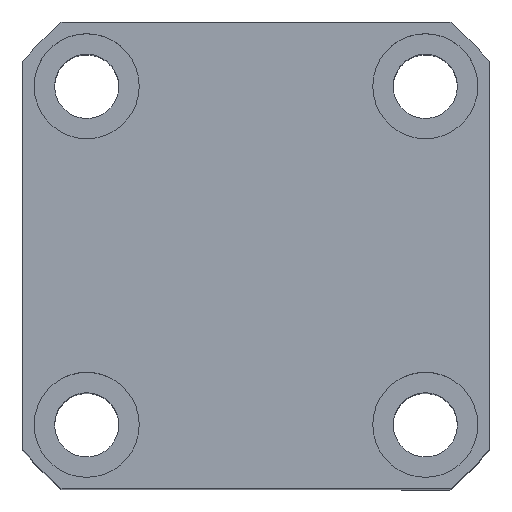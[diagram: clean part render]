
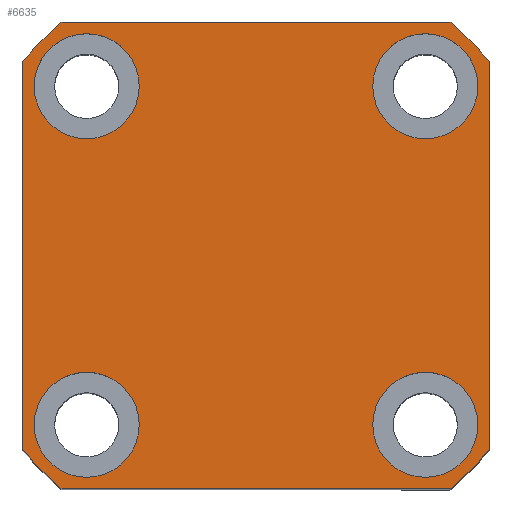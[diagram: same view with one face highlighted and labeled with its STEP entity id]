
A CAD part, top view. The second image highlights one B-rep face of the part: STEP entity #6635.
In plain terms, the highlighted planar face has unit normal (0, 0, 1).
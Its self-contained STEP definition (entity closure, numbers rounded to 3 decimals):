
#117 = ORIENTED_EDGE ( 'NONE', *, *, #8459, .F. ) ;
#233 = AXIS2_PLACEMENT_3D ( 'NONE', #7893, #3469, #10058 ) ;
#523 = VERTEX_POINT ( 'NONE', #2797 ) ;
#663 = CARTESIAN_POINT ( 'NONE',  ( -38., -29., 50. ) ) ;
#667 = LINE ( 'NONE', #1690, #8224 ) ;
#799 = CARTESIAN_POINT ( 'NONE',  ( 29., 29., 50. ) ) ;
#899 = DIRECTION ( 'NONE',  ( 1., 0., 0. ) ) ;
#919 = VERTEX_POINT ( 'NONE', #11881 ) ;
#1082 = CARTESIAN_POINT ( 'NONE',  ( 0., 0., 50. ) ) ;
#1117 = AXIS2_PLACEMENT_3D ( 'NONE', #8408, #2785, #1721 ) ;
#1120 = VERTEX_POINT ( 'NONE', #1200 ) ;
#1200 = CARTESIAN_POINT ( 'NONE',  ( -33.226, 40., 50. ) ) ;
#1299 = CARTESIAN_POINT ( 'NONE',  ( 0., 0., 50. ) ) ;
#1341 = CIRCLE ( 'NONE', #5158, 52. ) ;
#1493 = CARTESIAN_POINT ( 'NONE',  ( 29., -29., 50. ) ) ;
#1551 = CARTESIAN_POINT ( 'NONE',  ( -40., 33.226, 50. ) ) ;
#1651 = EDGE_CURVE ( 'NONE', #919, #13625, #10148, .T. ) ;
#1690 = CARTESIAN_POINT ( 'NONE',  ( 40., 33.226, 50. ) ) ;
#1721 = DIRECTION ( 'NONE',  ( 1., 0., 0. ) ) ;
#1724 = VERTEX_POINT ( 'NONE', #7674 ) ;
#1738 = CIRCLE ( 'NONE', #14001, 9. ) ;
#1853 = DIRECTION ( 'NONE',  ( 0., 0., 1. ) ) ;
#1855 = CIRCLE ( 'NONE', #12449, 9. ) ;
#1921 = EDGE_CURVE ( 'NONE', #11348, #919, #9957, .T. ) ;
#1928 = CIRCLE ( 'NONE', #1117, 52. ) ;
#2012 = ORIENTED_EDGE ( 'NONE', *, *, #11676, .T. ) ;
#2034 = CIRCLE ( 'NONE', #7762, 9. ) ;
#2063 = VECTOR ( 'NONE', #13487, 1000. ) ;
#2089 = FACE_BOUND ( 'NONE', #11738, .T. ) ;
#2161 = DIRECTION ( 'NONE',  ( 1., 0., 0. ) ) ;
#2397 = ORIENTED_EDGE ( 'NONE', *, *, #11001, .F. ) ;
#2429 = DIRECTION ( 'NONE',  ( 1., 0., 0. ) ) ;
#2706 = LINE ( 'NONE', #9014, #7693 ) ;
#2785 = DIRECTION ( 'NONE',  ( 0., 0., 1. ) ) ;
#2797 = CARTESIAN_POINT ( 'NONE',  ( -40., -33.226, 50. ) ) ;
#2842 = CARTESIAN_POINT ( 'NONE',  ( 20., 29., 50. ) ) ;
#2867 = ORIENTED_EDGE ( 'NONE', *, *, #7006, .T. ) ;
#2887 = AXIS2_PLACEMENT_3D ( 'NONE', #799, #1853, #3052 ) ;
#2929 = EDGE_CURVE ( 'NONE', #6508, #7819, #10119, .T. ) ;
#3052 = DIRECTION ( 'NONE',  ( 1., 0., 0. ) ) ;
#3159 = VERTEX_POINT ( 'NONE', #663 ) ;
#3327 = CARTESIAN_POINT ( 'NONE',  ( -20., 29., 50. ) ) ;
#3469 = DIRECTION ( 'NONE',  ( 0., 0., 1. ) ) ;
#3708 = CARTESIAN_POINT ( 'NONE',  ( -40., 33.226, 50. ) ) ;
#3738 = EDGE_CURVE ( 'NONE', #4613, #12480, #2034, .T. ) ;
#3782 = CIRCLE ( 'NONE', #233, 9. ) ;
#3783 = ORIENTED_EDGE ( 'NONE', *, *, #4700, .F. ) ;
#3795 = VERTEX_POINT ( 'NONE', #3708 ) ;
#3844 = ORIENTED_EDGE ( 'NONE', *, *, #9391, .F. ) ;
#3942 = LINE ( 'NONE', #1551, #2063 ) ;
#4214 = CARTESIAN_POINT ( 'NONE',  ( -33.226, -40., 50. ) ) ;
#4545 = DIRECTION ( 'NONE',  ( 1., 0., 0. ) ) ;
#4577 = CARTESIAN_POINT ( 'NONE',  ( 38., -29., 50. ) ) ;
#4581 = CARTESIAN_POINT ( 'NONE',  ( 29., 29., 50. ) ) ;
#4613 = VERTEX_POINT ( 'NONE', #4577 ) ;
#4615 = CARTESIAN_POINT ( 'NONE',  ( -29., 29., 50. ) ) ;
#4645 = DIRECTION ( 'NONE',  ( -1., 0., 0. ) ) ;
#4646 = VECTOR ( 'NONE', #11883, 1000. ) ;
#4691 = VERTEX_POINT ( 'NONE', #2842 ) ;
#4700 = EDGE_CURVE ( 'NONE', #13691, #3159, #1855, .T. ) ;
#4772 = DIRECTION ( 'NONE',  ( 1., 0., 0. ) ) ;
#4915 = CARTESIAN_POINT ( 'NONE',  ( 33.226, 40., 50. ) ) ;
#5085 = ORIENTED_EDGE ( 'NONE', *, *, #1651, .T. ) ;
#5090 = CARTESIAN_POINT ( 'NONE',  ( 40., -33.226, 50. ) ) ;
#5158 = AXIS2_PLACEMENT_3D ( 'NONE', #10134, #10183, #11236 ) ;
#5318 = ORIENTED_EDGE ( 'NONE', *, *, #7696, .F. ) ;
#5535 = EDGE_LOOP ( 'NONE', ( #3783, #2397 ) ) ;
#5803 = AXIS2_PLACEMENT_3D ( 'NONE', #1082, #7497, #899 ) ;
#5821 = EDGE_LOOP ( 'NONE', ( #8680, #117 ) ) ;
#6090 = ORIENTED_EDGE ( 'NONE', *, *, #11186, .T. ) ;
#6177 = DIRECTION ( 'NONE',  ( 0., 1., 0. ) ) ;
#6304 = AXIS2_PLACEMENT_3D ( 'NONE', #4615, #7778, #13217 ) ;
#6508 = VERTEX_POINT ( 'NONE', #8706 ) ;
#6514 = CARTESIAN_POINT ( 'NONE',  ( -20., -29., 50. ) ) ;
#6527 = ORIENTED_EDGE ( 'NONE', *, *, #1921, .T. ) ;
#6576 = AXIS2_PLACEMENT_3D ( 'NONE', #1299, #10009, #6648 ) ;
#6619 = AXIS2_PLACEMENT_3D ( 'NONE', #12112, #7835, #4545 ) ;
#6629 = CARTESIAN_POINT ( 'NONE',  ( 0., 0., 50. ) ) ;
#6635 = ADVANCED_FACE ( 'NONE', ( #9481, #9322, #13744, #2089, #13401 ), #7890, .T. ) ;
#6648 = DIRECTION ( 'NONE',  ( 1., 0., 0. ) ) ;
#6883 = EDGE_LOOP ( 'NONE', ( #3844, #11834 ) ) ;
#7006 = EDGE_CURVE ( 'NONE', #1120, #3795, #1928, .T. ) ;
#7118 = EDGE_CURVE ( 'NONE', #7484, #10988, #8289, .T. ) ;
#7484 = VERTEX_POINT ( 'NONE', #11654 ) ;
#7497 = DIRECTION ( 'NONE',  ( 0., 0., 1. ) ) ;
#7636 = AXIS2_PLACEMENT_3D ( 'NONE', #4581, #7889, #13438 ) ;
#7674 = CARTESIAN_POINT ( 'NONE',  ( 38., 29., 50. ) ) ;
#7693 = VECTOR ( 'NONE', #4645, 1000. ) ;
#7696 = EDGE_CURVE ( 'NONE', #1724, #4691, #7927, .T. ) ;
#7730 = DIRECTION ( 'NONE',  ( 1., 0., 0. ) ) ;
#7762 = AXIS2_PLACEMENT_3D ( 'NONE', #1493, #9237, #4772 ) ;
#7778 = DIRECTION ( 'NONE',  ( 0., 0., 1. ) ) ;
#7819 = VERTEX_POINT ( 'NONE', #4915 ) ;
#7835 = DIRECTION ( 'NONE',  ( 0., 0., 1. ) ) ;
#7854 = CARTESIAN_POINT ( 'NONE',  ( 29., -29., 50. ) ) ;
#7889 = DIRECTION ( 'NONE',  ( 0., 0., 1. ) ) ;
#7890 = PLANE ( 'NONE',  #6576 ) ;
#7893 = CARTESIAN_POINT ( 'NONE',  ( -29., 29., 50. ) ) ;
#7927 = CIRCLE ( 'NONE', #2887, 9. ) ;
#8220 = CARTESIAN_POINT ( 'NONE',  ( 20., -29., 50. ) ) ;
#8224 = VECTOR ( 'NONE', #6177, 1000. ) ;
#8289 = CIRCLE ( 'NONE', #6304, 9. ) ;
#8408 = CARTESIAN_POINT ( 'NONE',  ( 0., 0., 50. ) ) ;
#8459 = EDGE_CURVE ( 'NONE', #12480, #4613, #1738, .T. ) ;
#8609 = DIRECTION ( 'NONE',  ( 0., 0., 1. ) ) ;
#8680 = ORIENTED_EDGE ( 'NONE', *, *, #3738, .F. ) ;
#8706 = CARTESIAN_POINT ( 'NONE',  ( 40., 33.226, 50. ) ) ;
#9014 = CARTESIAN_POINT ( 'NONE',  ( -33.226, 40., 50. ) ) ;
#9020 = DIRECTION ( 'NONE',  ( 0., 0., 1. ) ) ;
#9237 = DIRECTION ( 'NONE',  ( 0., 0., 1. ) ) ;
#9322 = FACE_BOUND ( 'NONE', #5535, .T. ) ;
#9391 = EDGE_CURVE ( 'NONE', #10988, #7484, #3782, .T. ) ;
#9481 = FACE_BOUND ( 'NONE', #5821, .T. ) ;
#9957 = LINE ( 'NONE', #4214, #4646 ) ;
#10009 = DIRECTION ( 'NONE',  ( 0., 0., 1. ) ) ;
#10058 = DIRECTION ( 'NONE',  ( 1., 0., 0. ) ) ;
#10119 = CIRCLE ( 'NONE', #11339, 52. ) ;
#10134 = CARTESIAN_POINT ( 'NONE',  ( 0., 0., 50. ) ) ;
#10148 = CIRCLE ( 'NONE', #5803, 52. ) ;
#10183 = DIRECTION ( 'NONE',  ( 0., 0., 1. ) ) ;
#10307 = EDGE_CURVE ( 'NONE', #3795, #523, #3942, .T. ) ;
#10590 = ORIENTED_EDGE ( 'NONE', *, *, #10307, .T. ) ;
#10988 = VERTEX_POINT ( 'NONE', #3327 ) ;
#11001 = EDGE_CURVE ( 'NONE', #3159, #13691, #13349, .T. ) ;
#11186 = EDGE_CURVE ( 'NONE', #13625, #6508, #667, .T. ) ;
#11236 = DIRECTION ( 'NONE',  ( 1., 0., 0. ) ) ;
#11339 = AXIS2_PLACEMENT_3D ( 'NONE', #6629, #13212, #7730 ) ;
#11348 = VERTEX_POINT ( 'NONE', #14000 ) ;
#11654 = CARTESIAN_POINT ( 'NONE',  ( -38., 29., 50. ) ) ;
#11676 = EDGE_CURVE ( 'NONE', #523, #11348, #1341, .T. ) ;
#11738 = EDGE_LOOP ( 'NONE', ( #5318, #13187 ) ) ;
#11762 = ORIENTED_EDGE ( 'NONE', *, *, #2929, .T. ) ;
#11834 = ORIENTED_EDGE ( 'NONE', *, *, #7118, .F. ) ;
#11881 = CARTESIAN_POINT ( 'NONE',  ( 33.226, -40., 50. ) ) ;
#11883 = DIRECTION ( 'NONE',  ( 1., 0., 0. ) ) ;
#12052 = CARTESIAN_POINT ( 'NONE',  ( -29., -29., 50. ) ) ;
#12112 = CARTESIAN_POINT ( 'NONE',  ( -29., -29., 50. ) ) ;
#12191 = EDGE_CURVE ( 'NONE', #4691, #1724, #14029, .T. ) ;
#12449 = AXIS2_PLACEMENT_3D ( 'NONE', #12052, #8609, #2161 ) ;
#12480 = VERTEX_POINT ( 'NONE', #8220 ) ;
#13097 = EDGE_CURVE ( 'NONE', #7819, #1120, #2706, .T. ) ;
#13187 = ORIENTED_EDGE ( 'NONE', *, *, #12191, .F. ) ;
#13212 = DIRECTION ( 'NONE',  ( 0., 0., 1. ) ) ;
#13217 = DIRECTION ( 'NONE',  ( 1., 0., 0. ) ) ;
#13244 = ORIENTED_EDGE ( 'NONE', *, *, #13097, .T. ) ;
#13349 = CIRCLE ( 'NONE', #6619, 9. ) ;
#13401 = FACE_OUTER_BOUND ( 'NONE', #13845, .T. ) ;
#13438 = DIRECTION ( 'NONE',  ( 1., 0., 0. ) ) ;
#13487 = DIRECTION ( 'NONE',  ( 0., -1., 0. ) ) ;
#13625 = VERTEX_POINT ( 'NONE', #5090 ) ;
#13691 = VERTEX_POINT ( 'NONE', #6514 ) ;
#13744 = FACE_BOUND ( 'NONE', #6883, .T. ) ;
#13845 = EDGE_LOOP ( 'NONE', ( #2867, #10590, #2012, #6527, #5085, #6090, #11762, #13244 ) ) ;
#14000 = CARTESIAN_POINT ( 'NONE',  ( -33.226, -40., 50. ) ) ;
#14001 = AXIS2_PLACEMENT_3D ( 'NONE', #7854, #9020, #2429 ) ;
#14029 = CIRCLE ( 'NONE', #7636, 9. ) ;
